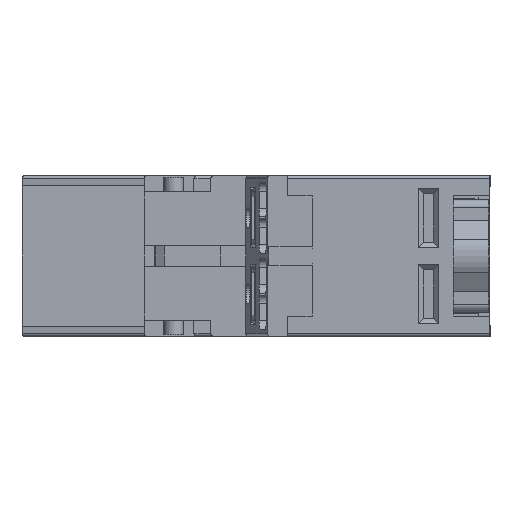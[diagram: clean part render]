
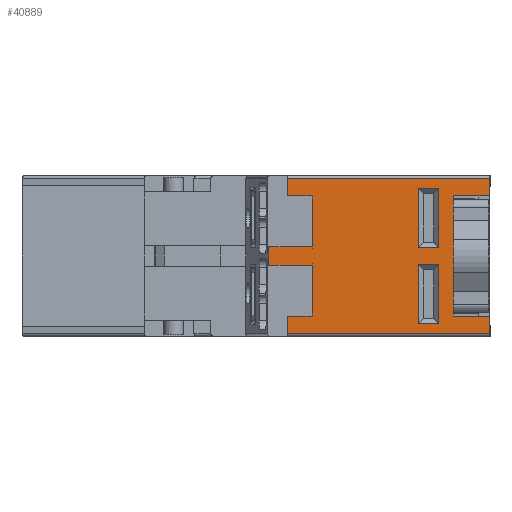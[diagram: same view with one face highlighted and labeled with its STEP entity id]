
A CAD part, left-side view. The second image highlights one B-rep face of the part: STEP entity #40889.
In plain terms, the highlighted planar face has unit normal (-1, 0, 0).
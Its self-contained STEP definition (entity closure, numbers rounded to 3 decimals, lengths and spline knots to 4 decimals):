
#393=FACE_BOUND('',#4841,.T.);
#394=FACE_BOUND('',#4842,.T.);
#2690=FACE_OUTER_BOUND('',#4840,.T.);
#4840=EDGE_LOOP('',(#31322,#31323,#31324,#31325,#31326,#31327,#31328,#31329,
#31330,#31331,#31332,#31333,#31334,#31335,#31336,#31337,#31338,#31339,#31340,
#31341));
#4841=EDGE_LOOP('',(#31342,#31343,#31344,#31345));
#4842=EDGE_LOOP('',(#31346,#31347,#31348,#31349));
#5917=LINE('',#55553,#10700);
#5922=LINE('',#55564,#10705);
#6029=LINE('',#55799,#10812);
#6034=LINE('',#55808,#10817);
#6035=LINE('',#55810,#10818);
#8716=LINE('',#62641,#13499);
#8717=LINE('',#62646,#13500);
#8720=LINE('',#62652,#13503);
#8721=LINE('',#62656,#13504);
#8724=LINE('',#62663,#13507);
#8974=LINE('',#63686,#13757);
#8975=LINE('',#63688,#13758);
#8976=LINE('',#63690,#13759);
#8977=LINE('',#63692,#13760);
#8978=LINE('',#63694,#13761);
#8979=LINE('',#63695,#13762);
#8980=LINE('',#63697,#13763);
#8981=LINE('',#63698,#13764);
#8982=LINE('',#63700,#13765);
#8983=LINE('',#63701,#13766);
#8984=LINE('',#63704,#13767);
#8985=LINE('',#63706,#13768);
#8986=LINE('',#63708,#13769);
#8987=LINE('',#63709,#13770);
#8988=LINE('',#63712,#13771);
#8989=LINE('',#63714,#13772);
#8990=LINE('',#63716,#13773);
#8991=LINE('',#63717,#13774);
#10700=VECTOR('',#44888,0.205);
#10705=VECTOR('',#44895,0.205);
#10812=VECTOR('',#45124,0.035);
#10817=VECTOR('',#45131,0.035);
#10818=VECTOR('',#45134,0.7);
#13499=VECTOR('',#50575,0.17);
#13500=VECTOR('',#50580,0.17);
#13503=VECTOR('',#50585,1.9886);
#13504=VECTOR('',#50590,0.24);
#13507=VECTOR('',#50597,1.9886);
#13757=VECTOR('',#51457,0.24);
#13758=VECTOR('',#51458,0.5);
#13759=VECTOR('',#51459,0.424);
#13760=VECTOR('',#51460,0.18);
#13761=VECTOR('',#51461,0.424);
#13762=VECTOR('',#51462,0.5);
#13763=VECTOR('',#51463,0.17);
#13764=VECTOR('',#51464,0.36);
#13765=VECTOR('',#51465,0.36);
#13766=VECTOR('',#51466,0.17);
#13767=VECTOR('',#51467,0.2);
#13768=VECTOR('',#51468,0.58);
#13769=VECTOR('',#51469,0.2);
#13770=VECTOR('',#51470,0.58);
#13771=VECTOR('',#51471,0.2);
#13772=VECTOR('',#51472,0.58);
#13773=VECTOR('',#51473,0.2);
#13774=VECTOR('',#51474,0.58);
#15479=VERTEX_POINT('',#55527);
#15488=VERTEX_POINT('',#55551);
#15489=VERTEX_POINT('',#55552);
#15494=VERTEX_POINT('',#55562);
#15561=VERTEX_POINT('',#55798);
#15564=VERTEX_POINT('',#55806);
#17858=VERTEX_POINT('',#62635);
#17860=VERTEX_POINT('',#62639);
#17861=VERTEX_POINT('',#62643);
#17862=VERTEX_POINT('',#62645);
#17864=VERTEX_POINT('',#62651);
#17865=VERTEX_POINT('',#62655);
#17867=VERTEX_POINT('',#62661);
#18119=VERTEX_POINT('',#63685);
#18120=VERTEX_POINT('',#63687);
#18121=VERTEX_POINT('',#63689);
#18122=VERTEX_POINT('',#63691);
#18123=VERTEX_POINT('',#63693);
#18124=VERTEX_POINT('',#63696);
#18125=VERTEX_POINT('',#63699);
#18126=VERTEX_POINT('',#63702);
#18127=VERTEX_POINT('',#63703);
#18128=VERTEX_POINT('',#63705);
#18129=VERTEX_POINT('',#63707);
#18130=VERTEX_POINT('',#63710);
#18131=VERTEX_POINT('',#63711);
#18132=VERTEX_POINT('',#63713);
#18133=VERTEX_POINT('',#63715);
#19132=EDGE_CURVE('',#15488,#15489,#5917,.T.);
#19138=EDGE_CURVE('',#15479,#15494,#5922,.T.);
#19258=EDGE_CURVE('',#15561,#15479,#6029,.T.);
#19263=EDGE_CURVE('',#15489,#15564,#6034,.T.);
#19264=EDGE_CURVE('',#15494,#15488,#6035,.T.);
#22482=EDGE_CURVE('',#17858,#17860,#8716,.T.);
#22484=EDGE_CURVE('',#17862,#17861,#8717,.T.);
#22487=EDGE_CURVE('',#17858,#17864,#8720,.T.);
#22489=EDGE_CURVE('',#17865,#17862,#8721,.T.);
#22493=EDGE_CURVE('',#17867,#17861,#8724,.T.);
#22917=EDGE_CURVE('',#17860,#18119,#8974,.T.);
#22918=EDGE_CURVE('',#18119,#18120,#8975,.T.);
#22919=EDGE_CURVE('',#18120,#18121,#8976,.T.);
#22920=EDGE_CURVE('',#18121,#18122,#8977,.T.);
#22921=EDGE_CURVE('',#18122,#18123,#8978,.T.);
#22922=EDGE_CURVE('',#18123,#17865,#8979,.T.);
#22923=EDGE_CURVE('',#18124,#17867,#8980,.T.);
#22924=EDGE_CURVE('',#18124,#15561,#8981,.T.);
#22925=EDGE_CURVE('',#15564,#18125,#8982,.T.);
#22926=EDGE_CURVE('',#17864,#18125,#8983,.T.);
#22927=EDGE_CURVE('',#18126,#18127,#8984,.T.);
#22928=EDGE_CURVE('',#18128,#18126,#8985,.T.);
#22929=EDGE_CURVE('',#18129,#18128,#8986,.T.);
#22930=EDGE_CURVE('',#18127,#18129,#8987,.T.);
#22931=EDGE_CURVE('',#18130,#18131,#8988,.T.);
#22932=EDGE_CURVE('',#18132,#18130,#8989,.T.);
#22933=EDGE_CURVE('',#18133,#18132,#8990,.T.);
#22934=EDGE_CURVE('',#18131,#18133,#8991,.T.);
#31322=ORIENTED_EDGE('',*,*,#22482,.T.);
#31323=ORIENTED_EDGE('',*,*,#22917,.T.);
#31324=ORIENTED_EDGE('',*,*,#22918,.T.);
#31325=ORIENTED_EDGE('',*,*,#22919,.T.);
#31326=ORIENTED_EDGE('',*,*,#22920,.T.);
#31327=ORIENTED_EDGE('',*,*,#22921,.T.);
#31328=ORIENTED_EDGE('',*,*,#22922,.T.);
#31329=ORIENTED_EDGE('',*,*,#22489,.T.);
#31330=ORIENTED_EDGE('',*,*,#22484,.T.);
#31331=ORIENTED_EDGE('',*,*,#22493,.F.);
#31332=ORIENTED_EDGE('',*,*,#22923,.F.);
#31333=ORIENTED_EDGE('',*,*,#22924,.T.);
#31334=ORIENTED_EDGE('',*,*,#19258,.T.);
#31335=ORIENTED_EDGE('',*,*,#19138,.T.);
#31336=ORIENTED_EDGE('',*,*,#19264,.T.);
#31337=ORIENTED_EDGE('',*,*,#19132,.T.);
#31338=ORIENTED_EDGE('',*,*,#19263,.T.);
#31339=ORIENTED_EDGE('',*,*,#22925,.T.);
#31340=ORIENTED_EDGE('',*,*,#22926,.F.);
#31341=ORIENTED_EDGE('',*,*,#22487,.F.);
#31342=ORIENTED_EDGE('',*,*,#22927,.F.);
#31343=ORIENTED_EDGE('',*,*,#22928,.F.);
#31344=ORIENTED_EDGE('',*,*,#22929,.F.);
#31345=ORIENTED_EDGE('',*,*,#22930,.F.);
#31346=ORIENTED_EDGE('',*,*,#22931,.F.);
#31347=ORIENTED_EDGE('',*,*,#22932,.F.);
#31348=ORIENTED_EDGE('',*,*,#22933,.F.);
#31349=ORIENTED_EDGE('',*,*,#22934,.F.);
#36973=PLANE('',#43629);
#40889=ADVANCED_FACE('',(#2690,#393,#394),#36973,.T.);
#43629=AXIS2_PLACEMENT_3D('',#63684,#51455,#51456);
#44888=DIRECTION('',(0.,0.,1.));
#44895=DIRECTION('',(0.,0.,1.));
#45124=DIRECTION('',(0.,0.,1.));
#45131=DIRECTION('',(0.,0.,1.));
#45134=DIRECTION('',(0.,0.,1.));
#50575=DIRECTION('',(0.,0.,-1.));
#50580=DIRECTION('',(0.,0.,-1.));
#50585=DIRECTION('',(0.,-1.,0.));
#50590=DIRECTION('',(0.,1.,0.));
#50597=DIRECTION('',(0.,1.,0.));
#51455=DIRECTION('center_axis',(-1.,0.,0.));
#51456=DIRECTION('ref_axis',(0.,1.,0.));
#51457=DIRECTION('',(0.,-1.,0.));
#51458=DIRECTION('',(0.,0.,-1.));
#51459=DIRECTION('',(0.,1.,0.));
#51460=DIRECTION('',(0.,0.,-1.));
#51461=DIRECTION('',(0.,-1.,0.));
#51462=DIRECTION('',(0.,0.,-1.));
#51463=DIRECTION('',(0.,0.,-1.));
#51464=DIRECTION('',(0.,1.,0.));
#51465=DIRECTION('',(0.,-1.,0.));
#51466=DIRECTION('',(0.,0.,-1.));
#51467=DIRECTION('',(0.,-1.,0.));
#51468=DIRECTION('',(0.,0.,-1.));
#51469=DIRECTION('',(0.,1.,0.));
#51470=DIRECTION('',(0.,0.,1.));
#51471=DIRECTION('',(0.,-1.,0.));
#51472=DIRECTION('',(0.,0.,-1.));
#51473=DIRECTION('',(0.,1.,0.));
#51474=DIRECTION('',(0.,0.,1.));
#55527=CARTESIAN_POINT('',(-0.11,0.36,-0.555));
#55551=CARTESIAN_POINT('',(-0.11,0.36,0.35));
#55552=CARTESIAN_POINT('',(-0.11,0.36,0.555));
#55553=CARTESIAN_POINT('',(-0.11,0.36,0.1));
#55562=CARTESIAN_POINT('',(-0.11,0.36,-0.35));
#55564=CARTESIAN_POINT('',(-0.11,0.36,0.1));
#55798=CARTESIAN_POINT('',(-0.11,0.36,-0.59));
#55799=CARTESIAN_POINT('',(-0.11,0.36,0.1));
#55806=CARTESIAN_POINT('',(-0.11,0.36,0.59));
#55808=CARTESIAN_POINT('',(-0.11,0.36,0.1));
#55810=CARTESIAN_POINT('',(-0.11,0.36,0.1));
#62635=CARTESIAN_POINT('',(-0.11,1.9886,0.76));
#62639=CARTESIAN_POINT('',(-0.11,1.9886,0.59));
#62641=CARTESIAN_POINT('',(-0.11,1.9886,0.7379));
#62643=CARTESIAN_POINT('',(-0.11,1.9886,-0.76));
#62645=CARTESIAN_POINT('',(-0.11,1.9886,-0.59));
#62646=CARTESIAN_POINT('',(-0.11,1.9886,0.0521));
#62651=CARTESIAN_POINT('',(-0.11,0.,0.76));
#62652=CARTESIAN_POINT('',(-0.11,1.1136,0.76));
#62655=CARTESIAN_POINT('',(-0.11,1.7486,-0.59));
#62656=CARTESIAN_POINT('',(-0.11,1.0993,-0.59));
#62661=CARTESIAN_POINT('',(-0.11,0.,-0.76));
#62663=CARTESIAN_POINT('',(-0.11,1.1136,-0.76));
#63684=CARTESIAN_POINT('Origin',(-0.11,0.,0.79));
#63685=CARTESIAN_POINT('',(-0.11,1.7486,0.59));
#63686=CARTESIAN_POINT('',(-0.11,1.0993,0.59));
#63687=CARTESIAN_POINT('',(-0.11,1.7486,0.09));
#63688=CARTESIAN_POINT('',(-0.11,1.7486,0.5558));
#63689=CARTESIAN_POINT('',(-0.11,2.1725,0.09));
#63690=CARTESIAN_POINT('',(-0.11,1.0993,0.09));
#63691=CARTESIAN_POINT('',(-0.11,2.1725,-0.09));
#63692=CARTESIAN_POINT('',(-0.11,2.1725,0.79));
#63693=CARTESIAN_POINT('',(-0.11,1.7486,-0.09));
#63694=CARTESIAN_POINT('',(-0.11,1.0993,-0.09));
#63695=CARTESIAN_POINT('',(-0.11,1.7486,0.2342));
#63696=CARTESIAN_POINT('',(-0.11,0.,-0.59));
#63697=CARTESIAN_POINT('',(-0.11,0.,0.79));
#63698=CARTESIAN_POINT('',(-0.11,0.,-0.59));
#63699=CARTESIAN_POINT('',(-0.11,0.,0.59));
#63700=CARTESIAN_POINT('',(-0.11,0.18,0.59));
#63701=CARTESIAN_POINT('',(-0.11,0.,0.79));
#63702=CARTESIAN_POINT('',(-0.11,0.705,-0.665));
#63703=CARTESIAN_POINT('',(-0.11,0.505,-0.665));
#63704=CARTESIAN_POINT('',(-0.11,0.2775,-0.665));
#63705=CARTESIAN_POINT('',(-0.11,0.705,-0.085));
#63706=CARTESIAN_POINT('',(-0.11,0.705,0.0875));
#63707=CARTESIAN_POINT('',(-0.11,0.505,-0.085));
#63708=CARTESIAN_POINT('',(-0.11,0.3275,-0.085));
#63709=CARTESIAN_POINT('',(-0.11,0.505,0.3275));
#63710=CARTESIAN_POINT('',(-0.11,0.705,0.085));
#63711=CARTESIAN_POINT('',(-0.11,0.505,0.085));
#63712=CARTESIAN_POINT('',(-0.11,0.2775,0.085));
#63713=CARTESIAN_POINT('',(-0.11,0.705,0.665));
#63714=CARTESIAN_POINT('',(-0.11,0.705,0.4625));
#63715=CARTESIAN_POINT('',(-0.11,0.505,0.665));
#63716=CARTESIAN_POINT('',(-0.11,0.3275,0.665));
#63717=CARTESIAN_POINT('',(-0.11,0.505,0.7025));
